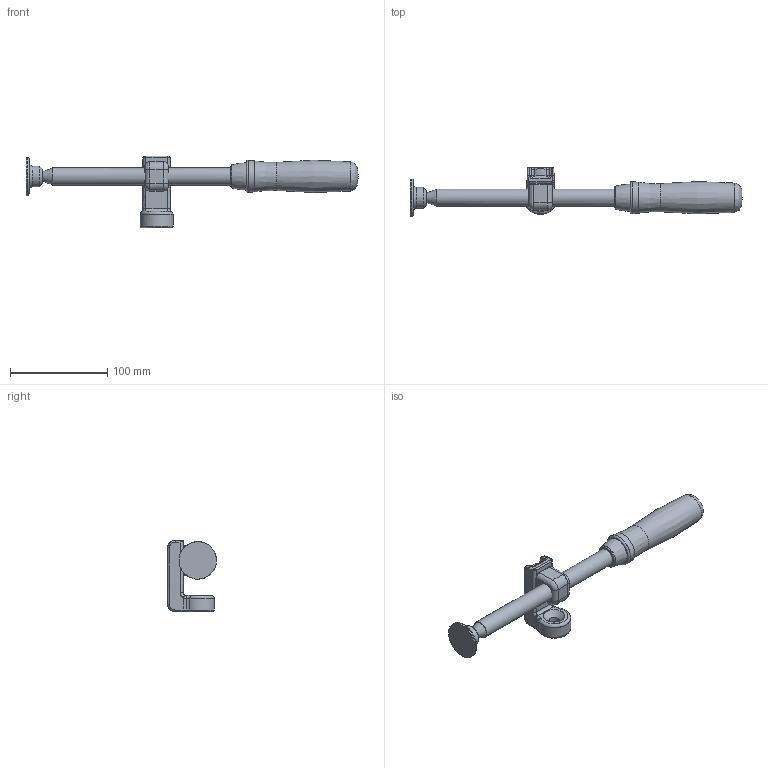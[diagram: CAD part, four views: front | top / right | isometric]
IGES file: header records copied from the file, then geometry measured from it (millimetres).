
Start section: ZWSOFT
Global section: file name: TW28AV.igs; native system: ZW3D; preprocessor: 1.0; author: ZW3D; organization: ZWSOFT; date: 150319.135018; units: millimetre
Bounding box: 341.33 x 50.22 x 73.97 mm (x, y, z)
Surface area: 42950.3 mm2 (no closed solid volume)
Topology: 0 solids, 0 shells, 153 faces, 709 edges, 653 vertices
Faces by surface type: bspline 153
